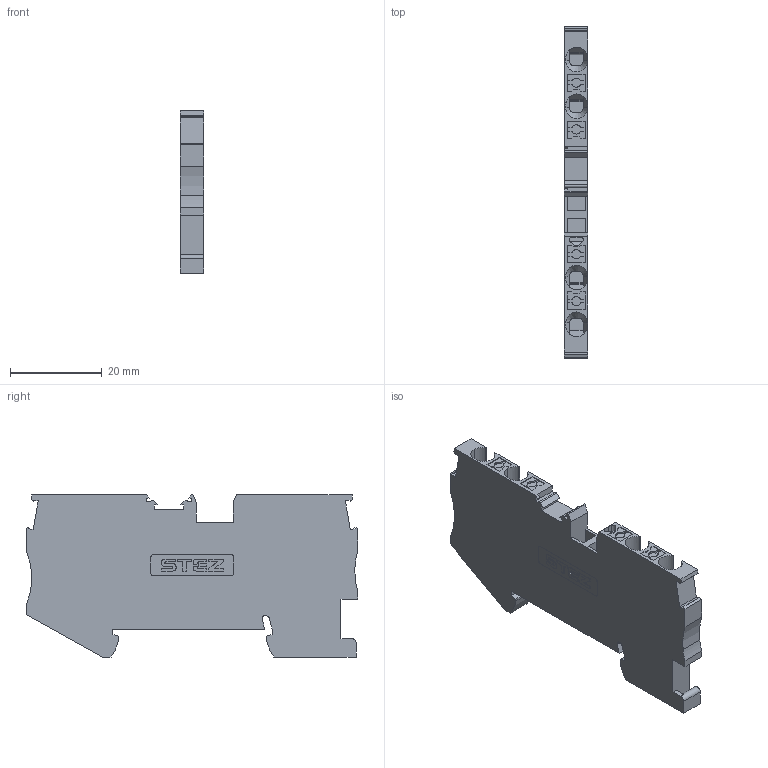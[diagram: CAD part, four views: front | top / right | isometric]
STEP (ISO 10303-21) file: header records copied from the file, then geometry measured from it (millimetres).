
FILE_DESCRIPTION(('TFLEX Exchange Step'),'2;1');
FILE_NAME('14000140_КНБ_2,5-4.stp', '2025-06-24T10:58:36+03:00',('MVarava'),('Unknown organisation'),'TFLEX Exchange 2023.0','T-FLEX CAD','Unknown authorisation');
FILE_SCHEMA( ('AUTOMOTIVE_DESIGN { 1 0 10303 214 1 1 1 1 }') );
Length unit declared in the file: millimetre
Products named in the file (1): Nodes
Bounding box: 5.15 x 72.3 x 35.35 mm (x, y, z)
Volume: 9598.5 mm3; surface area: 6808.4 mm2
Topology: 1 solids, 1 shells, 482 faces, 1393 edges, 925 vertices
Faces by surface type: plane 255, cylinder 210, torus 8, extrusion 5, cone 4
Entity records: 16956 total; most frequent: CARTESIAN_POINT 4216, ORIENTED_EDGE 2786, DIRECTION 2538, EDGE_CURVE 1393, VERTEX_POINT 925, AXIS2_PLACEMENT_3D 873, VECTOR 792, LINE 787
